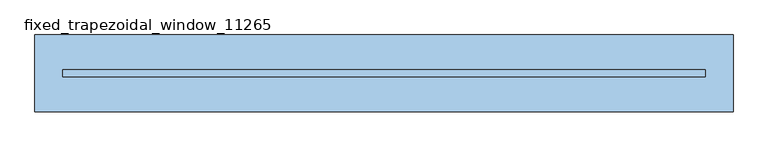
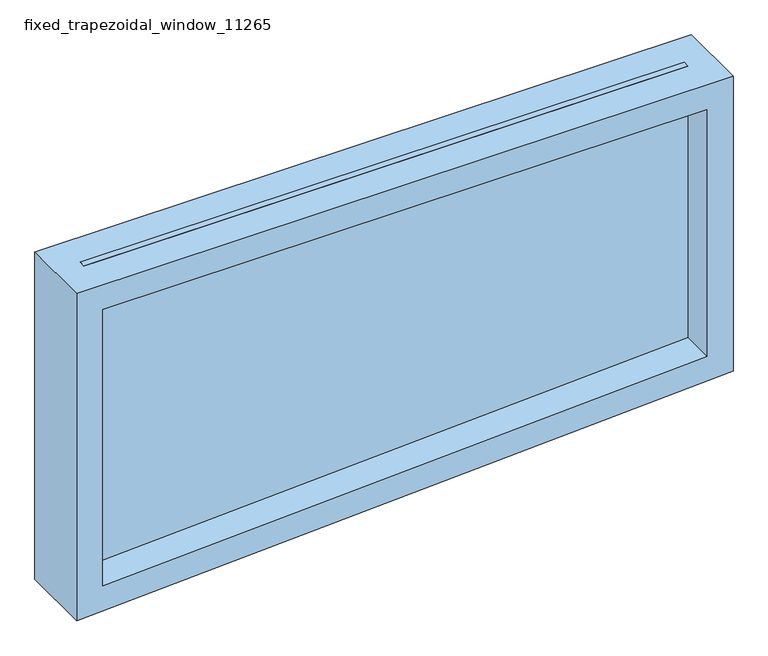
"""IFC4 building model written with IfcOpenShell, lengths in millimetres: window geometry, fixed_trapezoidal_window_11265 : Menuiserie 10.1."""

import ifcopenshell
import ifcopenshell.guid

model = None  # the IFC model being written
_history = None  # IfcOwnerHistory: only IFC2X3 demands one
_inside = {}  # id of a spatial element -> (the spatial element, [elements in it])
_under = {}  # id of a project, library or spatial element -> (it, [spatial elements below it])
_declared = {}  # id of a project -> (the project, [libraries it declares])
_typed = {}  # id of a type object -> (the type object, [elements of that type])
_made_of = {}  # id of a material, layer set ... -> (it, [elements and type objects made of it])


def new_model(schema):
    """Start an empty IFC model of exactly this schema.

    Asked for "IFC4X3", IfcOpenShell would pick the latest addendum, in which some entities
    have other attributes; the version numbers below select the first issue.
    IFC2X3 requires an IfcOwnerHistory on every rooted entity: one is made here for all.
    """
    global model, _history
    if schema == "IFC4X3":
        model = ifcopenshell.file(schema_version=(4, 3, 0, 0))
    else:
        model = ifcopenshell.file(schema=schema)
    _inside.clear()
    _under.clear()
    _declared.clear()
    _typed.clear()
    _made_of.clear()
    _history = None
    if model.schema == "IFC2X3":
        org = make("IfcOrganization", Name="unknown")
        user = make(
            "IfcPersonAndOrganization",
            ThePerson=make("IfcPerson", FamilyName="unknown"),
            TheOrganization=org,
        )
        app = make(
            "IfcApplication",
            ApplicationDeveloper=org,
            Version="unknown",
            ApplicationFullName="unknown",
            ApplicationIdentifier="unknown",
        )
        _history = make(
            "IfcOwnerHistory",
            OwningUser=user,
            OwningApplication=app,
            ChangeAction="ADDED",
            CreationDate=0,
        )
    return model


def make(cls, **values):
    """One entity of the class cls with the attributes given. An attribute that is None is left unset."""
    return model.create_entity(
        cls, **{name: value for name, value in values.items() if value is not None}
    )


def rooted(cls, **values):
    """An entity with a GlobalId (a new one), such as an element, a storey or a relation."""
    return make(cls, GlobalId=ifcopenshell.guid.new(), OwnerHistory=_history, **values)


def si_unit(unit_type, name, prefix=None):
    """IfcSIUnit, for example si_unit("LENGTHUNIT", "METRE", prefix="MILLI")."""
    return make("IfcSIUnit", UnitType=unit_type, Prefix=prefix, Name=name)


def assignment(units):
    """IfcUnitAssignment: the units of a project."""
    return None if units is None else make("IfcUnitAssignment", Units=units)


def point(xyz):
    """IfcCartesianPoint."""
    return None if xyz is None else make("IfcCartesianPoint", Coordinates=xyz)


def direction(xyz):
    """IfcDirection."""
    return None if xyz is None else make("IfcDirection", DirectionRatios=xyz)


def frame(location, z_axis=None, x_axis=None):
    """IfcAxis2Placement3D, a coordinate frame: its origin and axes. An axis left out is left unset."""
    return make(
        "IfcAxis2Placement3D",
        Location=point(location),
        Axis=direction(z_axis),
        RefDirection=direction(x_axis),
    )


def origin():
    """The frame at (0, 0, 0) with its axes left unset."""
    return frame((0.0, 0.0, 0.0))


def place(relative_to, where):
    """IfcLocalPlacement: puts the frame where relative to a parent placement (None: the world)."""
    return make(
        "IfcLocalPlacement", PlacementRelTo=relative_to, RelativePlacement=where
    )


def context(
    kind, dimensions, precision=None, world=None, true_north=None, identifier=None
):
    """IfcGeometricRepresentationContext, for example the 3D "Model" context."""
    return make(
        "IfcGeometricRepresentationContext",
        ContextIdentifier=identifier,
        ContextType=kind,
        CoordinateSpaceDimension=dimensions,
        Precision=precision,
        WorldCoordinateSystem=world,
        TrueNorth=true_north,
    )


def project(units=None, contexts=None):
    """IfcProject with its units and contexts."""
    return rooted(
        "IfcProject",
        Name="project",
        RepresentationContexts=contexts,
        UnitsInContext=assignment(units),
    )


def spatial(cls, under=None, at=None, **own):
    """A site, building, storey or space (cls), placed at a placement, below another one or the project."""
    s = rooted(cls, ObjectPlacement=at, **own)
    if under is not None:
        _under.setdefault(under.id(), (under, []))[1].append(s)
    return s


def polyline(points):
    """IfcPolyline through the points."""
    return make("IfcPolyline", Points=[point(p) for p in points])


def outline(outer, holes=None, kind="AREA"):
    """IfcArbitraryClosedProfileDef: a profile drawn as a closed curve; with holes, ...WithVoids."""
    if holes is None:
        return make("IfcArbitraryClosedProfileDef", ProfileType=kind, OuterCurve=outer)
    return make(
        "IfcArbitraryProfileDefWithVoids",
        ProfileType=kind,
        OuterCurve=outer,
        InnerCurves=holes,
    )


def extrude(swept, where, along, depth):
    """IfcExtrudedAreaSolid: the profile swept, set in the frame where, extruded along a direction by depth."""
    return make(
        "IfcExtrudedAreaSolid",
        SweptArea=swept,
        Position=where,
        ExtrudedDirection=direction(along),
        Depth=depth,
    )


def shape(context_of_items, identifier, shape_type, items):
    """IfcShapeRepresentation: the items that make up one representation, for example the "Body"."""
    return make(
        "IfcShapeRepresentation",
        ContextOfItems=context_of_items,
        RepresentationIdentifier=identifier,
        RepresentationType=shape_type,
        Items=items,
    )


def source(mapping_origin, context_of_items, identifier, shape_type, items):
    """IfcRepresentationMap: a shape defined once, which mapped items show again and again."""
    return make(
        "IfcRepresentationMap",
        MappingOrigin=mapping_origin,
        MappedRepresentation=shape(context_of_items, identifier, shape_type, items),
    )


def transform(
    local_origin,
    x_axis=None,
    y_axis=None,
    z_axis=None,
    scale=None,
    scale2=None,
    scale3=None,
    uniform=True,
):
    """IfcCartesianTransformationOperator3D, or its non-uniform kind. x_axis, y_axis, z_axis: its Axis1, 2, 3."""
    if uniform:
        return make(
            "IfcCartesianTransformationOperator3D",
            Axis1=direction(x_axis),
            Axis2=direction(y_axis),
            LocalOrigin=point(local_origin),
            Scale=scale,
            Axis3=direction(z_axis),
        )
    return make(
        "IfcCartesianTransformationOperator3DnonUniform",
        Axis1=direction(x_axis),
        Axis2=direction(y_axis),
        LocalOrigin=point(local_origin),
        Scale=scale,
        Axis3=direction(z_axis),
        Scale2=scale2,
        Scale3=scale3,
    )


def mapped(mapping_source, mapping_target):
    """IfcMappedItem: shows the shape of a source again, moved by a transform."""
    return make(
        "IfcMappedItem", MappingSource=mapping_source, MappingTarget=mapping_target
    )


def made_of(thing, what):
    """Note that an element or type object is made of a material, layer set ...; save() writes the relation."""
    if what is not None:
        _made_of.setdefault(what.id(), (what, []))[1].append(thing)
    return thing


def element(
    cls,
    number,
    at=None,
    inside=None,
    cuts=None,
    type_object=None,
    material=None,
    context=None,
    identifier="Body",
    shape_type=None,
    held_by="IfcProductDefinitionShape",
    body=None,
    shapes=None,
    **own,
):
    """One element of the class cls, such as IfcWall. Its Tag is "e" and its number.

    at: its placement. inside: the storey or other place that contains it. cuts: it is an
    opening in that element (IfcRelVoidsElement). A single representation is given by context,
    identifier, shape_type and body (its items); several are given by shapes. held_by: the class
    of the entity that holds the representations. save() writes the other relations.
    """
    e = rooted(cls, Tag="e%d" % number, ObjectPlacement=at, **own)
    if body is not None:
        shapes = [shape(context, identifier, shape_type, body)]
    if shapes is not None:
        e.Representation = make(held_by, Representations=shapes)
    if inside is not None:
        _inside.setdefault(inside.id(), (inside, []))[1].append(e)
    if cuts is not None:
        rooted(
            "IfcRelVoidsElement", RelatingBuildingElement=cuts, RelatedOpeningElement=e
        )
    if type_object is not None:
        _typed.setdefault(type_object.id(), (type_object, []))[1].append(e)
    return made_of(e, material)


def aggregate(whole, parts):
    """IfcRelAggregates: a whole, such as a stair, and the parts it consists of."""
    return rooted("IfcRelAggregates", RelatingObject=whole, RelatedObjects=parts)


def save(model, path):
    """Write the relations noted so far, then the file.

    IfcRelAggregates (storeys below a building ...), IfcRelContainedInSpatialStructure (elements
    in a storey), IfcRelDefinesByType, IfcRelAssociatesMaterial and IfcRelDeclares: one each for
    every whole, place, type object, material and project.
    """
    for whole, parts in _under.values():
        aggregate(whole, parts)
    for where, things in _inside.values():
        rooted(
            "IfcRelContainedInSpatialStructure",
            RelatedElements=things,
            RelatingStructure=where,
        )
    for kind, things in _typed.values():
        rooted("IfcRelDefinesByType", RelatedObjects=things, RelatingType=kind)
    for what, things in _made_of.values():
        rooted("IfcRelAssociatesMaterial", RelatedObjects=things, RelatingMaterial=what)
    for by, libraries in _declared.values():
        rooted("IfcRelDeclares", RelatingContext=by, RelatedDefinitions=libraries)
    model.write(path)


def fixed_trapezoidal_window_11265_0d3202cf(model_context):
    return source(origin(), model_context, "Body", "SweptSolid", [
        extrude(outline(polyline([(1870.0, -622.3), (1253.5320288, -622.3), (1314.7652439, 546.1), (1870.0, 546.1), (1870.0, -622.3)])), frame((0.0, -6.35, 0.0), z_axis=(0.0, 1.0, 0.0), x_axis=(0.0, 0.0, 1.0)), (0.0, 0.0, 1.0), 12.7),
        extrude(outline(polyline([(1870.0, 596.9), (1870.0, -673.1), (1200.0, -673.1), (1266.5578425, 596.9), (1870.0, 596.9)]), holes=[polyline([(1819.2, 546.1), (1314.7652439, 546.1), (1253.5320288, -622.3), (1819.2, -622.3), (1819.2, 546.1)])]), frame((0.0, -69.85, 0.0), z_axis=(0.0, 1.0, 0.0), x_axis=(0.0, 0.0, 1.0)), (0.0, 0.0, 1.0), 139.7),
    ])


if __name__ == "__main__":
    model = new_model("IFC4")
    model_context = context("Model", 3, world=origin())
    ifc_project = project(units=[si_unit("LENGTHUNIT", "METRE", prefix="MILLI")], contexts=[model_context])
    site = spatial("IfcSite", under=ifc_project)
    building = spatial("IfcBuilding", under=site)
    placement = place(None, origin())
    fixed_trapezoidal_window_11265_shape = fixed_trapezoidal_window_11265_0d3202cf(model_context)
    element("IfcWindow", 1, ObjectType="fixed_trapezoidal_window_11265 : Menuiserie 10.1", at=placement, inside=building, context=model_context, shape_type="MappedRepresentation", body=[
        mapped(fixed_trapezoidal_window_11265_shape, transform((0.0, 0.0, 0.0), x_axis=(1.0, 0.0, 0.0), y_axis=(0.0, 1.0, 0.0), z_axis=(0.0, 0.0, 1.0))),
    ])
    save(model, "model.ifc")
